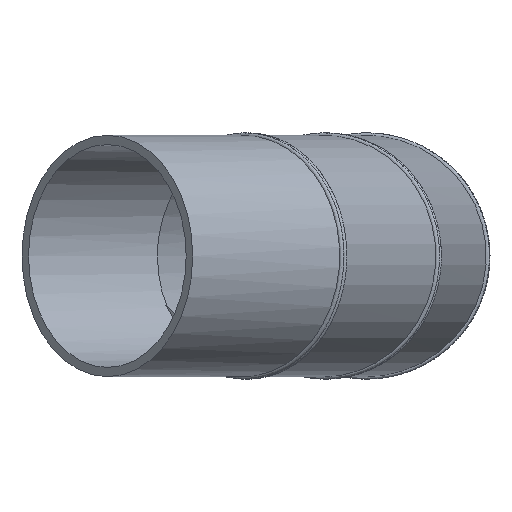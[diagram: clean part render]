
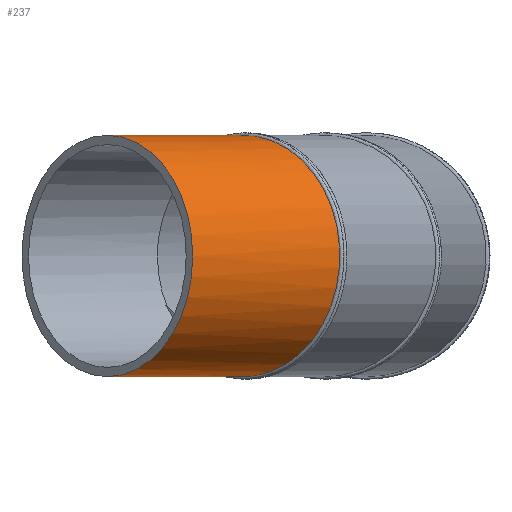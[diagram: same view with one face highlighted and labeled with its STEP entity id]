
A CAD part, front view. The second image highlights one B-rep face of the part: STEP entity #237.
In plain terms, the highlighted cylindrical face has radius 200 mm (diameter 400 mm), a full revolution.
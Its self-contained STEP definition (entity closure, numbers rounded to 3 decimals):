
#41=B_SPLINE_CURVE_WITH_KNOTS('',3,(#403,#404,#405,#406,#407,#408,#409,
#410,#411,#412,#413,#414,#415,#416,#417,#418,#419,#420,#421,#422,#423,#424,
#425,#426,#427,#428,#429,#430,#431,#432,#433,#434,#435,#436,#437,#438,#439,
#440,#441,#442,#443,#444,#445,#446,#447,#448,#449,#450,#451,#452,#453,#454,
#455,#456,#457,#458,#459,#460,#461,#462,#463,#464,#465,#466,#467,#468,#469,
#470,#471,#472,#473,#474,#475,#476,#477,#478,#479,#480,#481,#482,#483,#484,
#485,#486,#487,#488,#489),.UNSPECIFIED.,.T.,.F.,(1,1,1,1,1,1,1,1,1,1,1,
1,1,1,1,1,1,1,1,1,1,1,1,1,1,1,1,1,1,1,1,1,1,1,1,1,1,1,1,1,1,1,1,1,1,1,1,
1,1,1,1,1,1,1,1,1,1,1,1,1,1,1,1,1,1,1,1,1,1,1,1,1,1,1,1,1,1,1,1,1,1,1,1,
1,1,1,1,1,1,1,1),(-0.059,-0.04,-0.02,
0.,0.02,0.03,0.04,
0.05,0.059,0.079,0.099,
0.109,0.119,0.129,0.139,
0.149,0.158,0.178,0.198,
0.218,0.238,0.257,0.267,
0.277,0.297,0.317,0.337,
0.347,0.357,0.366,0.376,
0.396,0.416,0.436,0.446,
0.456,0.475,0.495,0.505,
0.515,0.535,0.555,0.574,
0.584,0.594,0.604,0.614,
0.634,0.654,0.673,0.693,
0.703,0.713,0.733,0.753,
0.772,0.782,0.792,0.812,
0.832,0.852,0.871,0.891,
0.901,0.911,0.921,0.931,
0.951,0.97,0.99,1.01,
1.02,1.03,1.04,1.05,1.07,
1.089,1.109,1.129,1.139,1.149,
1.159,1.169,1.188,1.208,1.228,
1.248,1.268,1.287,1.297,1.307),
 .UNSPECIFIED.);
#50=CYLINDRICAL_SURFACE('',#287,200.);
#82=ORIENTED_EDGE('',*,*,#134,.T.);
#83=ORIENTED_EDGE('',*,*,#127,.F.);
#127=EDGE_CURVE('',#153,#153,#173,.T.);
#134=EDGE_CURVE('',#160,#160,#41,.T.);
#153=VERTEX_POINT('',#388);
#160=VERTEX_POINT('',#490);
#173=CIRCLE('',#279,200.);
#179=EDGE_LOOP('',(#82));
#180=EDGE_LOOP('',(#83));
#207=FACE_BOUND('',#179,.T.);
#208=FACE_BOUND('',#180,.T.);
#237=ADVANCED_FACE('',(#207,#208),#50,.T.);
#279=AXIS2_PLACEMENT_3D('',#387,#317,#318);
#287=AXIS2_PLACEMENT_3D('',#402,#333,#334);
#317=DIRECTION('',(0.,1.,0.));
#318=DIRECTION('',(-1.,0.,0.));
#333=DIRECTION('',(0.,1.,0.));
#334=DIRECTION('',(-1.,0.,0.));
#387=CARTESIAN_POINT('',(997.554,195.,0.));
#388=CARTESIAN_POINT('',(797.554,195.,0.));
#402=CARTESIAN_POINT('',(997.554,-157.661,0.));
#403=CARTESIAN_POINT('',(798.207,-97.051,-19.772));
#404=CARTESIAN_POINT('',(797.227,-96.922,-0.009));
#405=CARTESIAN_POINT('',(798.046,-97.03,16.504));
#406=CARTESIAN_POINT('',(799.668,-97.243,29.558));
#407=CARTESIAN_POINT('',(801.371,-97.467,39.305));
#408=CARTESIAN_POINT('',(803.552,-97.753,48.944));
#409=CARTESIAN_POINT('',(807.061,-98.214,61.536));
#410=CARTESIAN_POINT('',(812.568,-98.937,76.855));
#411=CARTESIAN_POINT('',(819.546,-99.854,91.589));
#412=CARTESIAN_POINT('',(826.05,-100.708,103.049));
#413=CARTESIAN_POINT('',(831.335,-101.402,111.371));
#414=CARTESIAN_POINT('',(837.012,-102.148,119.409));
#415=CARTESIAN_POINT('',(843.089,-102.946,127.174));
#416=CARTESIAN_POINT('',(849.544,-103.795,134.63));
#417=CARTESIAN_POINT('',(858.594,-104.984,144.102));
#418=CARTESIAN_POINT('',(870.802,-106.588,155.122));
#419=CARTESIAN_POINT('',(886.599,-108.664,166.788));
#420=CARTESIAN_POINT('',(903.52,-110.889,176.876));
#421=CARTESIAN_POINT('',(921.087,-113.199,185.142));
#422=CARTESIAN_POINT('',(936.319,-115.203,190.588));
#423=CARTESIAN_POINT('',(948.847,-116.851,194.061));
#424=CARTESIAN_POINT('',(961.633,-118.533,196.938));
#425=CARTESIAN_POINT('',(977.761,-120.656,199.34));
#426=CARTESIAN_POINT('',(997.399,-123.241,200.32));
#427=CARTESIAN_POINT('',(1013.685,-125.385,199.536));
#428=CARTESIAN_POINT('',(1026.689,-127.098,197.948));
#429=CARTESIAN_POINT('',(1036.336,-128.369,196.285));
#430=CARTESIAN_POINT('',(1045.89,-129.627,194.154));
#431=CARTESIAN_POINT('',(1058.522,-131.291,190.677));
#432=CARTESIAN_POINT('',(1073.904,-133.318,185.201));
#433=CARTESIAN_POINT('',(1091.716,-135.666,176.811));
#434=CARTESIAN_POINT('',(1105.743,-137.515,168.436));
#435=CARTESIAN_POINT('',(1116.498,-138.933,160.887));
#436=CARTESIAN_POINT('',(1126.798,-140.291,152.873));
#437=CARTESIAN_POINT('',(1138.835,-141.879,142.006));
#438=CARTESIAN_POINT('',(1149.769,-143.321,130.018));
#439=CARTESIAN_POINT('',(1157.842,-144.386,119.75));
#440=CARTESIAN_POINT('',(1165.466,-145.392,109.002));
#441=CARTESIAN_POINT('',(1173.943,-146.51,94.956));
#442=CARTESIAN_POINT('',(1182.457,-147.634,77.079));
#443=CARTESIAN_POINT('',(1188.026,-148.369,61.616));
#444=CARTESIAN_POINT('',(1191.569,-148.836,48.897));
#445=CARTESIAN_POINT('',(1193.743,-149.123,39.273));
#446=CARTESIAN_POINT('',(1195.442,-149.348,29.551));
#447=CARTESIAN_POINT('',(1197.068,-149.562,16.439));
#448=CARTESIAN_POINT('',(1197.881,-149.67,0.014));
#449=CARTESIAN_POINT('',(1196.896,-149.539,-19.804));
#450=CARTESIAN_POINT('',(1194.008,-149.159,-39.146));
#451=CARTESIAN_POINT('',(1190.054,-148.636,-54.938));
#452=CARTESIAN_POINT('',(1185.958,-148.096,-67.354));
#453=CARTESIAN_POINT('',(1181.212,-147.47,-79.66));
#454=CARTESIAN_POINT('',(1174.183,-146.542,-94.51));
#455=CARTESIAN_POINT('',(1163.999,-145.198,-111.471));
#456=CARTESIAN_POINT('',(1154.216,-143.907,-124.63));
#457=CARTESIAN_POINT('',(1145.604,-142.771,-134.587));
#458=CARTESIAN_POINT('',(1136.553,-141.578,-144.065));
#459=CARTESIAN_POINT('',(1124.359,-139.969,-155.079));
#460=CARTESIAN_POINT('',(1108.56,-137.886,-166.754));
#461=CARTESIAN_POINT('',(1091.629,-135.654,-176.855));
#462=CARTESIAN_POINT('',(1074.031,-133.335,-185.139));
#463=CARTESIAN_POINT('',(1058.81,-131.329,-190.581));
#464=CARTESIAN_POINT('',(1046.306,-129.682,-194.049));
#465=CARTESIAN_POINT('',(1036.743,-128.422,-196.205));
#466=CARTESIAN_POINT('',(1027.074,-127.149,-197.89));
#467=CARTESIAN_POINT('',(1014.133,-125.444,-199.499));
#468=CARTESIAN_POINT('',(997.77,-123.29,-200.32));
#469=CARTESIAN_POINT('',(978.218,-120.716,-199.385));
#470=CARTESIAN_POINT('',(958.768,-118.156,-196.53));
#471=CARTESIAN_POINT('',(942.929,-116.072,-192.59));
#472=CARTESIAN_POINT('',(930.478,-114.435,-188.502));
#473=CARTESIAN_POINT('',(921.333,-113.232,-184.993));
#474=CARTESIAN_POINT('',(912.364,-112.052,-181.039));
#475=CARTESIAN_POINT('',(900.632,-110.51,-175.161));
#476=CARTESIAN_POINT('',(886.601,-108.665,-166.789));
#477=CARTESIAN_POINT('',(870.731,-106.579,-155.062));
#478=CARTESIAN_POINT('',(856.28,-104.68,-142.012));
#479=CARTESIAN_POINT('',(845.35,-103.243,-130.03));
#480=CARTESIAN_POINT('',(837.293,-102.185,-119.785));
#481=CARTESIAN_POINT('',(831.585,-101.435,-111.745));
#482=CARTESIAN_POINT('',(826.277,-100.738,-103.423));
#483=CARTESIAN_POINT('',(819.77,-99.883,-92.025));
#484=CARTESIAN_POINT('',(812.672,-98.951,-77.129));
#485=CARTESIAN_POINT('',(805.983,-98.072,-58.57));
#486=CARTESIAN_POINT('',(801.132,-97.435,-39.362));
#487=CARTESIAN_POINT('',(798.207,-97.051,-19.772));
#488=CARTESIAN_POINT('',(797.227,-96.922,-0.009));
#489=CARTESIAN_POINT('',(798.046,-97.03,16.504));
#490=CARTESIAN_POINT('',(797.554,-96.965,0.));
